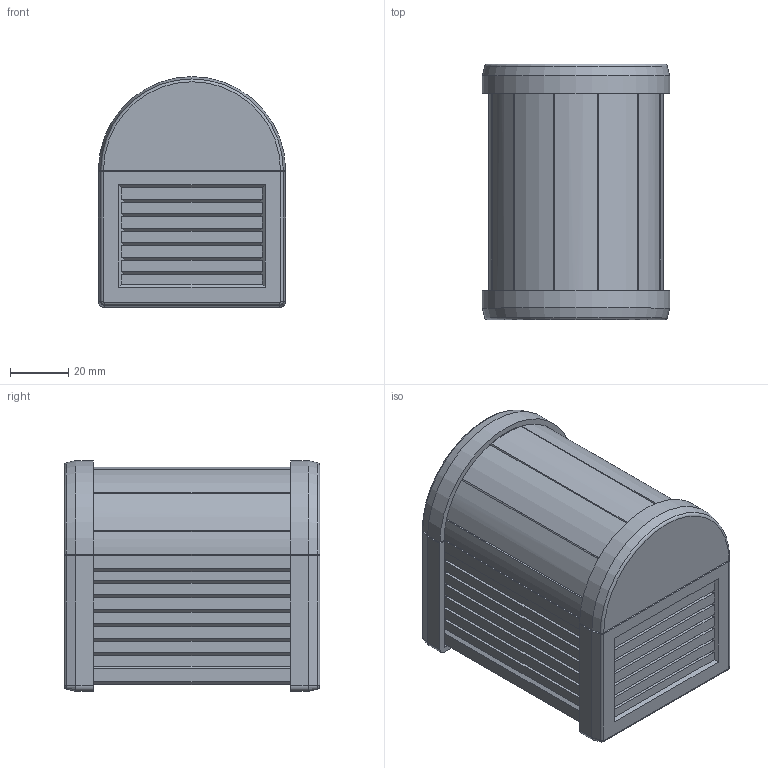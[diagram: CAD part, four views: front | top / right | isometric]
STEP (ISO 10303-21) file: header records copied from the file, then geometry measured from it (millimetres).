
FILE_DESCRIPTION(/* description */ (''),/* implementation_level */ '2;1');
FILE_NAME(/* name */ (''),/* time_stamp */ (''),/* author */ (''),/* organization */ (''),/* preprocessor_version */ 'ST-DEVELOPER v18.1',/* originating_system */ 'Autodesk Translation Framework v10.14.0.1471',/* authorisation */ '');
FILE_SCHEMA (('AUTOMOTIVE_DESIGN { 1 0 10303 214 3 1 1 }'));
Length unit declared in the file: millimetre
Products named in the file (1): Easy Print Treasure Chest Puzzle
Bounding box: 64.5 x 88 x 79.5 mm (x, y, z)
Volume: 182612.1 mm3; surface area: 101860 mm2
Topology: 10 solids, 10 shells, 624 faces, 1697 edges, 1097 vertices
Faces by surface type: plane 519, cylinder 57, cone 42, bspline 4, torus 2
Full cylindrical faces by diameter (mm): 2 x3
Entity records: 19458 total; most frequent: CARTESIAN_POINT 3643, ORIENTED_EDGE 3384, DIRECTION 3067, EDGE_CURVE 1692, LINE 1465, VECTOR 1465, VERTEX_POINT 1097, AXIS2_PLACEMENT_3D 801
